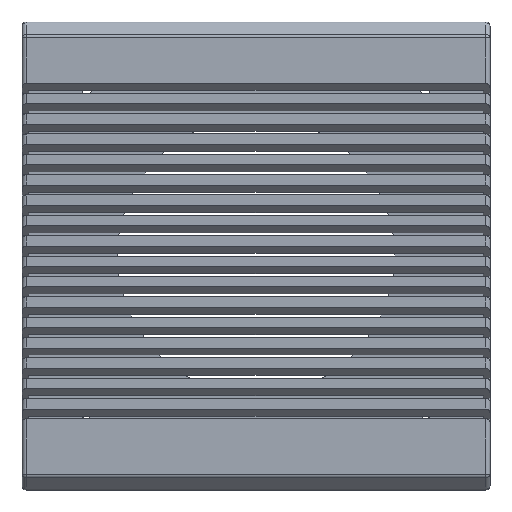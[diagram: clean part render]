
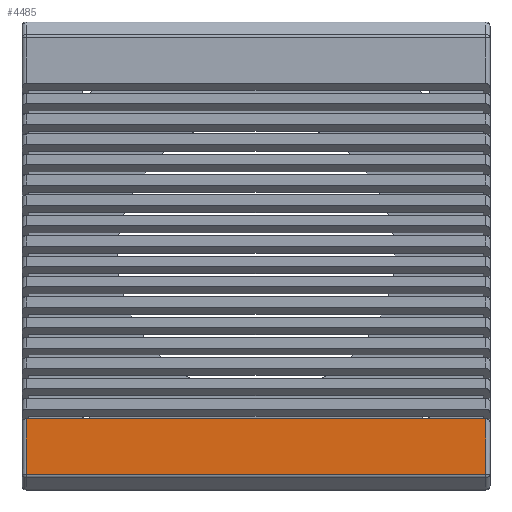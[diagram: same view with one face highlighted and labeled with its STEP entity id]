
A CAD part, front view. The second image highlights one B-rep face of the part: STEP entity #4485.
In plain terms, the highlighted planar face has unit normal (0, -1, 0).
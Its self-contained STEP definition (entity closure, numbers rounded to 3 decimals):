
#222=PLANE('',#4784);
#385=FACE_OUTER_BOUND('',#603,.T.);
#603=EDGE_LOOP('',(#3903,#3904,#3905,#3906));
#1066=LINE('',#7034,#1618);
#1152=LINE('',#7208,#1704);
#1161=LINE('',#7227,#1713);
#1162=LINE('',#7228,#1714);
#1618=VECTOR('',#5627,10.);
#1704=VECTOR('',#5821,10.);
#1713=VECTOR('',#5846,10.);
#1714=VECTOR('',#5847,10.);
#2193=VERTEX_POINT('',#7031);
#2194=VERTEX_POINT('',#7033);
#2228=VERTEX_POINT('',#7206);
#2230=VERTEX_POINT('',#7226);
#2739=EDGE_CURVE('',#2194,#2193,#1066,.T.);
#2836=EDGE_CURVE('',#2228,#2193,#1152,.T.);
#2845=EDGE_CURVE('',#2230,#2228,#1161,.T.);
#2846=EDGE_CURVE('',#2194,#2230,#1162,.T.);
#3903=ORIENTED_EDGE('',*,*,#2739,.T.);
#3904=ORIENTED_EDGE('',*,*,#2836,.F.);
#3905=ORIENTED_EDGE('',*,*,#2845,.F.);
#3906=ORIENTED_EDGE('',*,*,#2846,.F.);
#4485=ADVANCED_FACE('',(#385),#222,.T.);
#4784=AXIS2_PLACEMENT_3D('',#7225,#5844,#5845);
#5627=DIRECTION('',(-1.,0.,0.));
#5821=DIRECTION('',(0.,0.,1.));
#5844=DIRECTION('center_axis',(0.,-1.,0.));
#5845=DIRECTION('ref_axis',(0.,0.,-1.));
#5846=DIRECTION('',(-1.,0.,0.));
#5847=DIRECTION('',(0.,0.,-1.));
#7031=CARTESIAN_POINT('',(-165.5,-19.5,-117.217));
#7033=CARTESIAN_POINT('',(165.5,-19.5,-117.217));
#7034=CARTESIAN_POINT('',(84.25,-19.5,-117.217));
#7206=CARTESIAN_POINT('',(-165.5,-19.5,-157.257));
#7208=CARTESIAN_POINT('',(-165.5,-19.5,84.25));
#7225=CARTESIAN_POINT('Origin',(0.,-19.5,168.5));
#7226=CARTESIAN_POINT('',(165.5,-19.5,-157.257));
#7227=CARTESIAN_POINT('',(0.,-19.5,-157.257));
#7228=CARTESIAN_POINT('',(165.5,-19.5,84.25));
